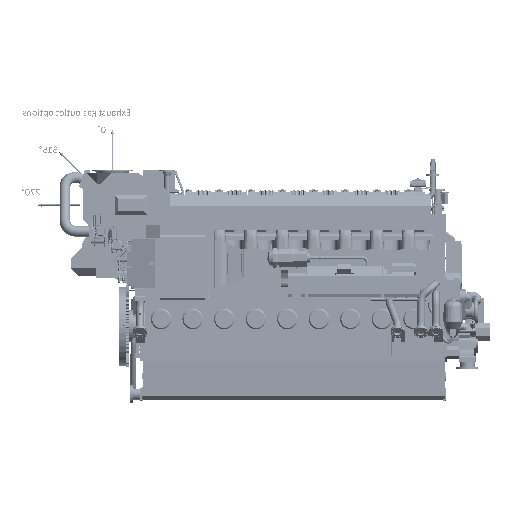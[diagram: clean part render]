
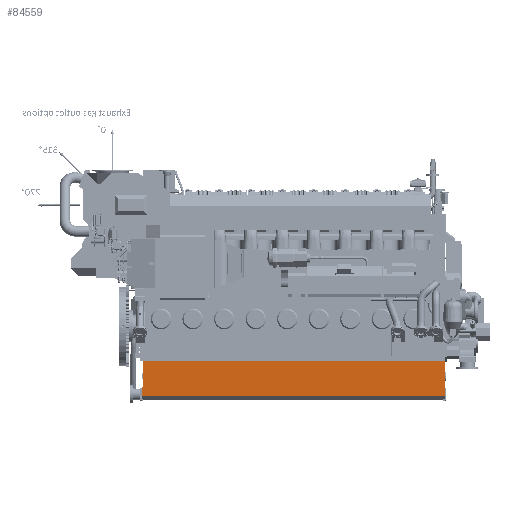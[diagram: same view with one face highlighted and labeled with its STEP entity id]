
A CAD part, front view. The second image highlights one B-rep face of the part: STEP entity #84559.
In plain terms, the highlighted planar face has unit normal (0, -0.999, -0.052).
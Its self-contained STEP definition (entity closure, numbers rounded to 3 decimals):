
#48016=PLANE('',#399669);
#84559=ADVANCED_FACE('',(#106817),#48016,.T.);
#106817=FACE_OUTER_BOUND('',#130494,.T.);
#130494=EDGE_LOOP('',(#237966,#237967,#237968,#237969,#237970,#237971));
#237966=ORIENTED_EDGE('',*,*,#318363,.F.);
#237967=ORIENTED_EDGE('',*,*,#318458,.F.);
#237968=ORIENTED_EDGE('',*,*,#318396,.T.);
#237969=ORIENTED_EDGE('',*,*,#318449,.T.);
#237970=ORIENTED_EDGE('',*,*,#318418,.F.);
#237971=ORIENTED_EDGE('',*,*,#318459,.F.);
#270374=VERTEX_POINT('',#798697);
#270375=VERTEX_POINT('',#798698);
#270407=VERTEX_POINT('',#798763);
#270408=VERTEX_POINT('',#798765);
#270418=VERTEX_POINT('',#798787);
#270429=VERTEX_POINT('',#798808);
#318363=EDGE_CURVE('',#270374,#270375,#343979,.T.);
#318396=EDGE_CURVE('',#270408,#270407,#344000,.T.);
#318418=EDGE_CURVE('',#270429,#270418,#344018,.T.);
#318449=EDGE_CURVE('',#270407,#270418,#344036,.T.);
#318458=EDGE_CURVE('',#270408,#270374,#344045,.T.);
#318459=EDGE_CURVE('',#270375,#270429,#344046,.T.);
#343979=LINE('',#798696,#370092);
#344000=LINE('',#798764,#370113);
#344018=LINE('',#798809,#370131);
#344036=LINE('',#798870,#370149);
#344045=LINE('',#798886,#370158);
#344046=LINE('',#798887,#370159);
#370092=VECTOR('',#485267,1.);
#370113=VECTOR('',#485314,1.);
#370131=VECTOR('',#485342,1.);
#370149=VECTOR('',#485388,1.);
#370158=VECTOR('',#485403,1.);
#370159=VECTOR('',#485404,1.);
#399669=AXIS2_PLACEMENT_3D('',#798888,#485405,#485406);
#485267=DIRECTION('',(0.,-0.052,0.999));
#485314=DIRECTION('',(0.,0.052,-0.999));
#485342=DIRECTION('',(0.,0.052,-0.999));
#485388=DIRECTION('',(1.,0.,0.));
#485403=DIRECTION('',(1.,0.,0.));
#485404=DIRECTION('',(1.,0.,0.));
#485405=DIRECTION('',(0.,-0.999,-0.052));
#485406=DIRECTION('',(0.,0.052,-0.999));
#798696=CARTESIAN_POINT('',(-4690.,-438.25,-545.));
#798697=CARTESIAN_POINT('',(-4690.,-417.179,-950.));
#798698=CARTESIAN_POINT('',(-4690.,-438.25,-545.));
#798763=CARTESIAN_POINT('',(-4710.,-410.5,-1078.395));
#798764=CARTESIAN_POINT('',(-4710.,-438.25,-545.));
#798765=CARTESIAN_POINT('',(-4710.,-417.179,-950.));
#798787=CARTESIAN_POINT('',(0.,-410.5,-1078.395));
#798808=CARTESIAN_POINT('',(0.,-438.25,-545.));
#798809=CARTESIAN_POINT('',(0.,-438.25,-545.));
#798870=CARTESIAN_POINT('',(-4710.,-410.5,-1078.395));
#798886=CARTESIAN_POINT('',(-4710.,-417.179,-950.));
#798887=CARTESIAN_POINT('',(-4710.,-438.25,-545.));
#798888=CARTESIAN_POINT('',(-4710.,-438.25,-545.));
